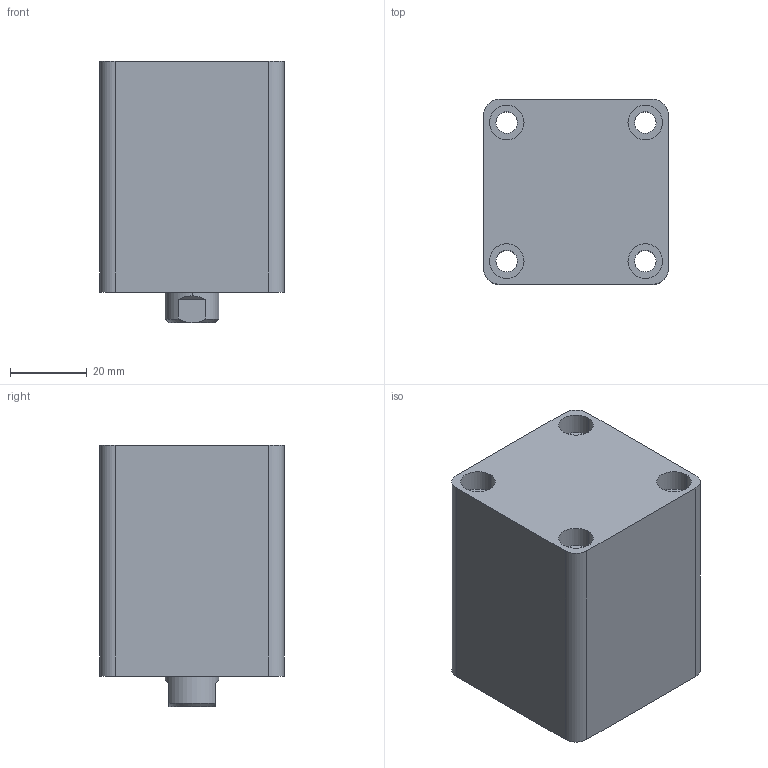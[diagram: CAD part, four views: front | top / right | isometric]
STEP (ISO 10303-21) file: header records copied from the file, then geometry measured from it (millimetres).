
FILE_DESCRIPTION (( 'STEP AP203' ), '1' );
FILE_NAME ('HTB-SD25-15N.STEP', '2019-10-07T05:57:53', ( '微软用户' ), ( '微软中国' ), 'SwSTEP 2.0', 'SolidWorks 2012', '' );
FILE_SCHEMA (( 'CONFIG_CONTROL_DESIGN' ));
Length unit declared in the file: millimetre
Products named in the file (3): HTB-SD25-15N活塞杆; HTB-SD25-15N; HTB-SD25-15掛极
Assembly tree (2 placements, depth 2):
  HTB-SD25-15N
    HTB-SD25-15掛极
    HTB-SD25-15N活塞杆
Bounding box: 48 x 48 x 68 mm (x, y, z)
Volume: 123986.3 mm3; surface area: 29119.2 mm2
Topology: 2 solids, 2 shells, 83 faces, 182 edges, 117 vertices
Faces by surface type: cylinder 42, plane 27, cone 8, torus 6
Entity records: 2653 total; most frequent: DIRECTION 454, CARTESIAN_POINT 429, ORIENTED_EDGE 360, AXIS2_PLACEMENT_3D 194, EDGE_CURVE 180, VERTEX_POINT 117, EDGE_LOOP 107, CIRCLE 106
